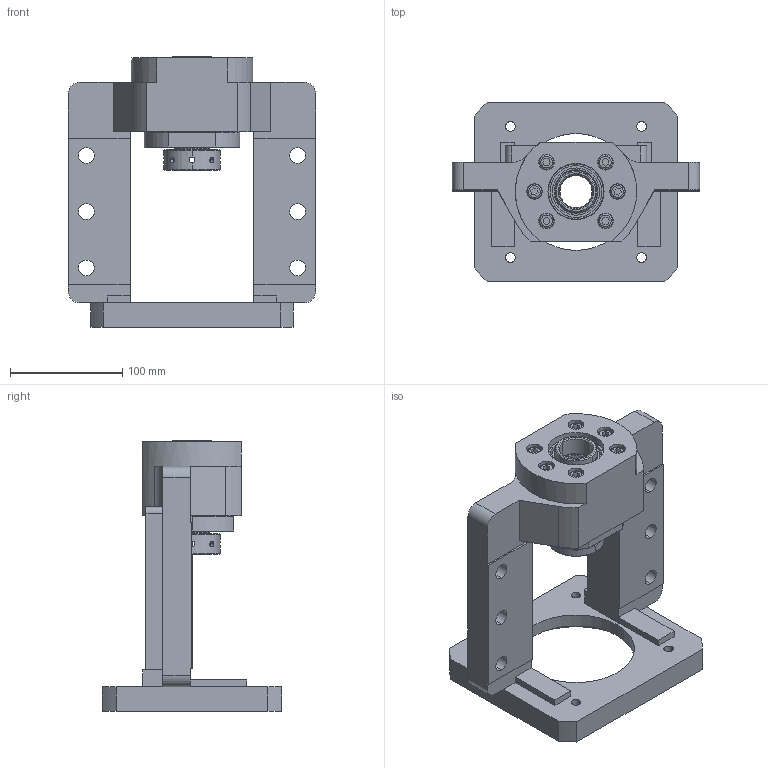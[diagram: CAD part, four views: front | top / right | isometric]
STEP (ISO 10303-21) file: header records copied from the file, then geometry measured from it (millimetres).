
FILE_DESCRIPTION (( 'STEP AP203' ), '1' );
FILE_NAME ('MBCK30L-I²Õ¦X¥ó.STEP', '2025-09-18T03:28:24', ( '' ), ( '' ), 'SwSTEP 2.0', 'SolidWorks 2018', '' );
FILE_SCHEMA (( 'CONFIG_CONTROL_DESIGN' ));
Length unit declared in the file: millimetre
Products named in the file (2): MBCK30L-I組合件
Bounding box: 220 x 160 x 241 mm (x, y, z)
Surface area: 221367 mm2 (no closed solid volume)
Topology: 0 solids, 32 shells, 337 faces, 938 edges, 627 vertices
Faces by surface type: cylinder 126, plane 124, cone 60, torus 24, bspline 3
Entity records: 16588 total; most frequent: CARTESIAN_POINT 7786, DIRECTION 1874, ORIENTED_EDGE 1626, EDGE_CURVE 930, AXIS2_PLACEMENT_3D 733, VERTEX_POINT 627, EDGE_LOOP 413, LINE 408
